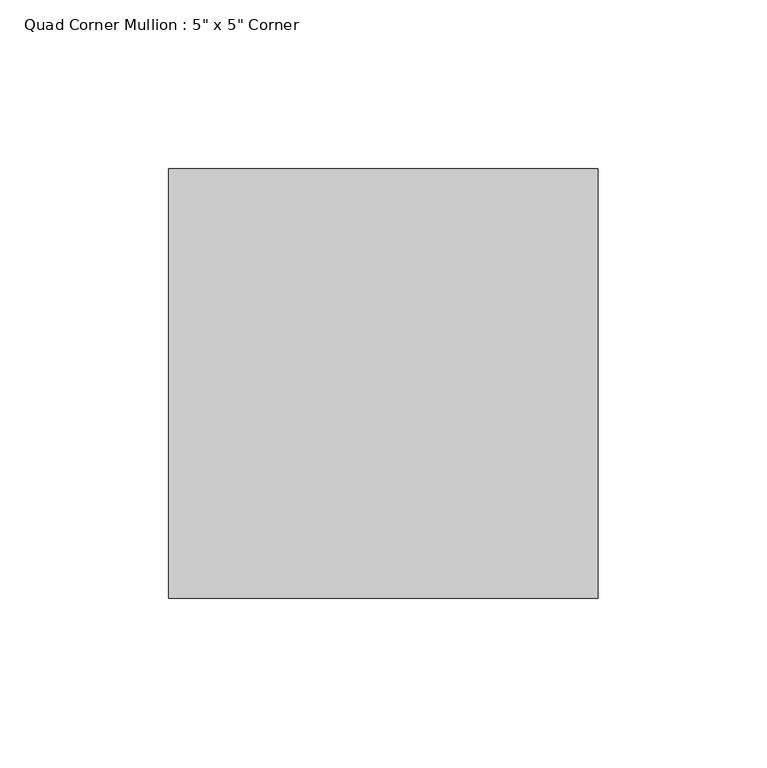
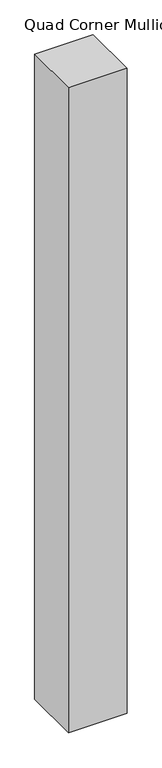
"""IFC4 building model written with IfcOpenShell, lengths in millimetres: member geometry."""

from ifc_helpers import new_model, si_unit, frame, origin, place, context, project, spatial, polyline, outline, extrude, source, transform, mapped, element, save


def member_86d38aa4(model_context):
    return source(origin(), model_context, "Body", "SweptSolid", [
        extrude(outline(polyline([(76.2, 50.8), (76.2, -76.2), (-50.8, -76.2), (-50.8, 50.8), (76.2, 50.8)])), frame((0.0, 0.0, -1479.55), z_axis=(0.0, 0.0, 1.0), x_axis=(1.0, 0.0, 0.0)), (0.0, 0.0, 1.0), 1479.55),
    ])


if __name__ == "__main__":
    model = new_model("IFC4")
    model_context = context("Model", 3, world=origin())
    ifc_project = project(units=[si_unit("LENGTHUNIT", "METRE", prefix="MILLI")], contexts=[model_context])
    site = spatial("IfcSite", under=ifc_project)
    building = spatial("IfcBuilding", under=site)
    placement = place(None, origin())
    member_shape = member_86d38aa4(model_context)
    element("IfcMember", 1, ObjectType="Quad Corner Mullion : 5\" x 5\" Corner", at=placement, inside=building, context=model_context, shape_type="MappedRepresentation", body=[
        mapped(member_shape, transform((0.0, 0.0, 0.0), x_axis=(1.0, 0.0, 0.0), y_axis=(0.0, 1.0, 0.0), z_axis=(0.0, 0.0, 1.0))),
    ])
    save(model, "model.ifc")
